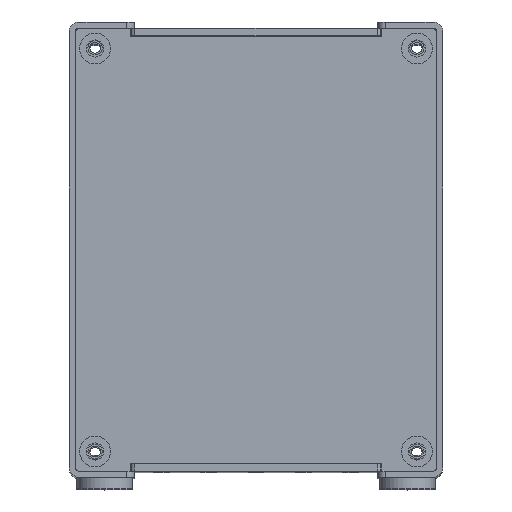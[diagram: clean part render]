
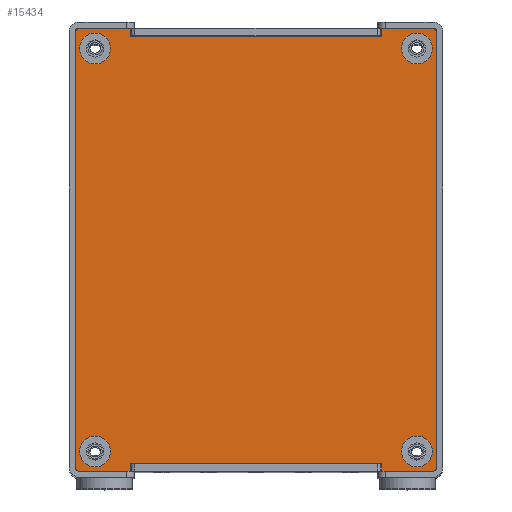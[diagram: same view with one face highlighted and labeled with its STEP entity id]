
A CAD part, top view. The second image highlights one B-rep face of the part: STEP entity #15434.
In plain terms, the highlighted planar face has unit normal (0, 0, 1).
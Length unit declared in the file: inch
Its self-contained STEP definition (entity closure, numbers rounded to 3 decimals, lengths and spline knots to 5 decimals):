
#14819=CARTESIAN_POINT('',(-1.275,-1.596,0.));
#14820=DIRECTION('',(0.,0.,-1.));
#14821=DIRECTION('',(-1.,0.,0.));
#14822=AXIS2_PLACEMENT_3D('',#14819,#14820,#14821);
#14824=CARTESIAN_POINT('',(-1.275,-1.596,0.));
#14825=DIRECTION('',(0.,0.,-1.));
#14826=DIRECTION('',(1.,0.,0.));
#14827=AXIS2_PLACEMENT_3D('',#14824,#14825,#14826);
#14829=CARTESIAN_POINT('',(1.275,-1.596,0.));
#14830=DIRECTION('',(0.,0.,-1.));
#14831=DIRECTION('',(-1.,0.,0.));
#14832=AXIS2_PLACEMENT_3D('',#14829,#14830,#14831);
#14834=CARTESIAN_POINT('',(1.275,-1.596,0.));
#14835=DIRECTION('',(0.,0.,-1.));
#14836=DIRECTION('',(1.,0.,0.));
#14837=AXIS2_PLACEMENT_3D('',#14834,#14835,#14836);
#14839=CARTESIAN_POINT('',(-1.275,1.596,0.));
#14840=DIRECTION('',(0.,0.,-1.));
#14841=DIRECTION('',(-1.,0.,0.));
#14842=AXIS2_PLACEMENT_3D('',#14839,#14840,#14841);
#14844=CARTESIAN_POINT('',(-1.275,1.596,0.));
#14845=DIRECTION('',(0.,0.,-1.));
#14846=DIRECTION('',(1.,0.,0.));
#14847=AXIS2_PLACEMENT_3D('',#14844,#14845,#14846);
#14849=CARTESIAN_POINT('',(1.275,1.596,0.));
#14850=DIRECTION('',(0.,0.,-1.));
#14851=DIRECTION('',(-1.,0.,0.));
#14852=AXIS2_PLACEMENT_3D('',#14849,#14850,#14851);
#14854=CARTESIAN_POINT('',(1.275,1.596,0.));
#14855=DIRECTION('',(0.,0.,-1.));
#14856=DIRECTION('',(1.,0.,0.));
#14857=AXIS2_PLACEMENT_3D('',#14854,#14855,#14856);
#14859=DIRECTION('',(-1.,0.,0.));
#14860=VECTOR('',#14859,0.407);
#14861=CARTESIAN_POINT('',(-0.995,1.752,0.));
#14862=LINE('',#14861,#14860);
#14863=DIRECTION('',(0.,-1.,0.));
#14864=VECTOR('',#14863,0.06);
#14865=CARTESIAN_POINT('',(-0.995,1.752,0.));
#14866=LINE('',#14865,#14864);
#14867=DIRECTION('',(1.,0.,0.));
#14868=VECTOR('',#14867,1.99);
#14869=CARTESIAN_POINT('',(-0.995,1.692,0.));
#14870=LINE('',#14869,#14868);
#14871=DIRECTION('',(0.,-1.,0.));
#14872=VECTOR('',#14871,0.06);
#14873=CARTESIAN_POINT('',(0.995,1.752,0.));
#14874=LINE('',#14873,#14872);
#14875=DIRECTION('',(-1.,0.,0.));
#14876=VECTOR('',#14875,0.407);
#14877=CARTESIAN_POINT('',(1.402,1.752,0.));
#14878=LINE('',#14877,#14876);
#14879=DIRECTION('',(0.,1.,0.));
#14880=VECTOR('',#14879,3.444);
#14881=CARTESIAN_POINT('',(1.432,-1.722,0.));
#14882=LINE('',#14881,#14880);
#14883=DIRECTION('',(1.,0.,0.));
#14884=VECTOR('',#14883,0.407);
#14885=CARTESIAN_POINT('',(0.995,-1.752,0.));
#14886=LINE('',#14885,#14884);
#14887=DIRECTION('',(0.,1.,0.));
#14888=VECTOR('',#14887,0.06);
#14889=CARTESIAN_POINT('',(0.995,-1.752,0.));
#14890=LINE('',#14889,#14888);
#14891=DIRECTION('',(-1.,0.,0.));
#14892=VECTOR('',#14891,1.99);
#14893=CARTESIAN_POINT('',(0.995,-1.692,0.));
#14894=LINE('',#14893,#14892);
#14895=DIRECTION('',(0.,1.,0.));
#14896=VECTOR('',#14895,0.06);
#14897=CARTESIAN_POINT('',(-0.995,-1.752,0.));
#14898=LINE('',#14897,#14896);
#14899=DIRECTION('',(1.,0.,0.));
#14900=VECTOR('',#14899,0.407);
#14901=CARTESIAN_POINT('',(-1.402,-1.752,0.));
#14902=LINE('',#14901,#14900);
#14903=DIRECTION('',(0.,-1.,0.));
#14904=VECTOR('',#14903,3.444);
#14905=CARTESIAN_POINT('',(-1.432,1.722,0.));
#14906=LINE('',#14905,#14904);
#15152=CARTESIAN_POINT('',(-1.402,1.722,0.));
#15153=DIRECTION('',(0.,0.,1.));
#15154=DIRECTION('',(0.,1.,0.));
#15155=AXIS2_PLACEMENT_3D('',#15152,#15153,#15154);
#15170=CARTESIAN_POINT('',(-1.402,-1.722,0.));
#15171=DIRECTION('',(0.,0.,1.));
#15172=DIRECTION('',(-1.,0.,0.));
#15173=AXIS2_PLACEMENT_3D('',#15170,#15171,#15172);
#15196=CARTESIAN_POINT('',(1.402,-1.722,0.));
#15197=DIRECTION('',(0.,0.,1.));
#15198=DIRECTION('',(0.,-1.,0.));
#15199=AXIS2_PLACEMENT_3D('',#15196,#15197,#15198);
#15214=CARTESIAN_POINT('',(1.402,1.722,0.));
#15215=DIRECTION('',(0.,0.,1.));
#15216=DIRECTION('',(1.,0.,0.));
#15217=AXIS2_PLACEMENT_3D('',#15214,#15215,#15216);
#15263=CARTESIAN_POINT('',(-1.3975,-1.596,0.));
#15264=CARTESIAN_POINT('',(-1.1525,-1.596,0.));
#15265=VERTEX_POINT('',#15263);
#15266=VERTEX_POINT('',#15264);
#15275=CARTESIAN_POINT('',(1.1525,-1.596,0.));
#15276=CARTESIAN_POINT('',(1.3975,-1.596,0.));
#15277=VERTEX_POINT('',#15275);
#15278=VERTEX_POINT('',#15276);
#15287=CARTESIAN_POINT('',(-1.3975,1.596,0.));
#15288=CARTESIAN_POINT('',(-1.1525,1.596,0.));
#15289=VERTEX_POINT('',#15287);
#15290=VERTEX_POINT('',#15288);
#15299=CARTESIAN_POINT('',(1.1525,1.596,0.));
#15300=CARTESIAN_POINT('',(1.3975,1.596,0.));
#15301=VERTEX_POINT('',#15299);
#15302=VERTEX_POINT('',#15300);
#15307=CARTESIAN_POINT('',(-0.995,1.752,0.));
#15308=CARTESIAN_POINT('',(-0.995,1.692,0.));
#15309=VERTEX_POINT('',#15307);
#15310=VERTEX_POINT('',#15308);
#15311=CARTESIAN_POINT('',(0.995,1.692,0.));
#15312=VERTEX_POINT('',#15311);
#15313=CARTESIAN_POINT('',(0.995,1.752,0.));
#15314=VERTEX_POINT('',#15313);
#15315=CARTESIAN_POINT('',(0.995,-1.752,0.));
#15316=CARTESIAN_POINT('',(0.995,-1.692,0.));
#15317=VERTEX_POINT('',#15315);
#15318=VERTEX_POINT('',#15316);
#15319=CARTESIAN_POINT('',(-0.995,-1.692,0.));
#15320=VERTEX_POINT('',#15319);
#15321=CARTESIAN_POINT('',(-0.995,-1.752,0.));
#15322=VERTEX_POINT('',#15321);
#15339=CARTESIAN_POINT('',(-1.432,1.722,0.));
#15341=VERTEX_POINT('',#15339);
#15345=CARTESIAN_POINT('',(-1.402,1.752,0.));
#15346=VERTEX_POINT('',#15345);
#15347=CARTESIAN_POINT('',(1.402,1.752,0.));
#15349=VERTEX_POINT('',#15347);
#15353=CARTESIAN_POINT('',(1.432,1.722,0.));
#15354=VERTEX_POINT('',#15353);
#15355=CARTESIAN_POINT('',(1.432,-1.722,0.));
#15357=VERTEX_POINT('',#15355);
#15361=CARTESIAN_POINT('',(1.402,-1.752,0.));
#15362=VERTEX_POINT('',#15361);
#15363=CARTESIAN_POINT('',(-1.402,-1.752,0.));
#15365=VERTEX_POINT('',#15363);
#15369=CARTESIAN_POINT('',(-1.432,-1.722,0.));
#15370=VERTEX_POINT('',#15369);
#15371=CARTESIAN_POINT('',(0.,0.,0.));
#15372=DIRECTION('',(0.,0.,1.));
#15373=DIRECTION('',(1.,0.,0.));
#15374=AXIS2_PLACEMENT_3D('',#15371,#15372,#15373);
#15375=PLANE('',#15374);
#15377=ORIENTED_EDGE('',*,*,#15376,.F.);
#15379=ORIENTED_EDGE('',*,*,#15378,.F.);
#15381=ORIENTED_EDGE('',*,*,#15380,.T.);
#15383=ORIENTED_EDGE('',*,*,#15382,.T.);
#15385=ORIENTED_EDGE('',*,*,#15384,.F.);
#15387=ORIENTED_EDGE('',*,*,#15386,.F.);
#15389=ORIENTED_EDGE('',*,*,#15388,.F.);
#15391=ORIENTED_EDGE('',*,*,#15390,.F.);
#15393=ORIENTED_EDGE('',*,*,#15392,.F.);
#15395=ORIENTED_EDGE('',*,*,#15394,.F.);
#15397=ORIENTED_EDGE('',*,*,#15396,.T.);
#15399=ORIENTED_EDGE('',*,*,#15398,.T.);
#15401=ORIENTED_EDGE('',*,*,#15400,.F.);
#15403=ORIENTED_EDGE('',*,*,#15402,.F.);
#15405=ORIENTED_EDGE('',*,*,#15404,.F.);
#15407=ORIENTED_EDGE('',*,*,#15406,.F.);
#15408=EDGE_LOOP('',(#15377,#15379,#15381,#15383,#15385,#15387,#15389,#15391,
#15393,#15395,#15397,#15399,#15401,#15403,#15405,#15407));
#15409=FACE_OUTER_BOUND('',#15408,.F.);
#15411=ORIENTED_EDGE('',*,*,#15410,.F.);
#15413=ORIENTED_EDGE('',*,*,#15412,.F.);
#15414=EDGE_LOOP('',(#15411,#15413));
#15415=FACE_BOUND('',#15414,.F.);
#15417=ORIENTED_EDGE('',*,*,#15416,.F.);
#15419=ORIENTED_EDGE('',*,*,#15418,.F.);
#15420=EDGE_LOOP('',(#15417,#15419));
#15421=FACE_BOUND('',#15420,.F.);
#15423=ORIENTED_EDGE('',*,*,#15422,.F.);
#15425=ORIENTED_EDGE('',*,*,#15424,.F.);
#15426=EDGE_LOOP('',(#15423,#15425));
#15427=FACE_BOUND('',#15426,.F.);
#15429=ORIENTED_EDGE('',*,*,#15428,.F.);
#15431=ORIENTED_EDGE('',*,*,#15430,.F.);
#15432=EDGE_LOOP('',(#15429,#15431));
#15433=FACE_BOUND('',#15432,.F.);
#15434=ADVANCED_FACE('',(#15409,#15415,#15421,#15427,#15433),#15375,.T.);
#14823=CIRCLE('',#14822,0.1225);
#14828=CIRCLE('',#14827,0.1225);
#14833=CIRCLE('',#14832,0.1225);
#14838=CIRCLE('',#14837,0.1225);
#14843=CIRCLE('',#14842,0.1225);
#14848=CIRCLE('',#14847,0.1225);
#14853=CIRCLE('',#14852,0.1225);
#14858=CIRCLE('',#14857,0.1225);
#15156=CIRCLE('',#15155,0.03);
#15174=CIRCLE('',#15173,0.03);
#15200=CIRCLE('',#15199,0.03);
#15218=CIRCLE('',#15217,0.03);
#15376=EDGE_CURVE('',#15346,#15341,#15156,.T.);
#15378=EDGE_CURVE('',#15309,#15346,#14862,.T.);
#15380=EDGE_CURVE('',#15309,#15310,#14866,.T.);
#15382=EDGE_CURVE('',#15310,#15312,#14870,.T.);
#15384=EDGE_CURVE('',#15314,#15312,#14874,.T.);
#15386=EDGE_CURVE('',#15349,#15314,#14878,.T.);
#15388=EDGE_CURVE('',#15354,#15349,#15218,.T.);
#15390=EDGE_CURVE('',#15357,#15354,#14882,.T.);
#15392=EDGE_CURVE('',#15362,#15357,#15200,.T.);
#15394=EDGE_CURVE('',#15317,#15362,#14886,.T.);
#15396=EDGE_CURVE('',#15317,#15318,#14890,.T.);
#15398=EDGE_CURVE('',#15318,#15320,#14894,.T.);
#15400=EDGE_CURVE('',#15322,#15320,#14898,.T.);
#15402=EDGE_CURVE('',#15365,#15322,#14902,.T.);
#15404=EDGE_CURVE('',#15370,#15365,#15174,.T.);
#15406=EDGE_CURVE('',#15341,#15370,#14906,.T.);
#15410=EDGE_CURVE('',#15277,#15278,#14833,.T.);
#15412=EDGE_CURVE('',#15278,#15277,#14838,.T.);
#15416=EDGE_CURVE('',#15289,#15290,#14843,.T.);
#15418=EDGE_CURVE('',#15290,#15289,#14848,.T.);
#15422=EDGE_CURVE('',#15301,#15302,#14853,.T.);
#15424=EDGE_CURVE('',#15302,#15301,#14858,.T.);
#15428=EDGE_CURVE('',#15265,#15266,#14823,.T.);
#15430=EDGE_CURVE('',#15266,#15265,#14828,.T.);
